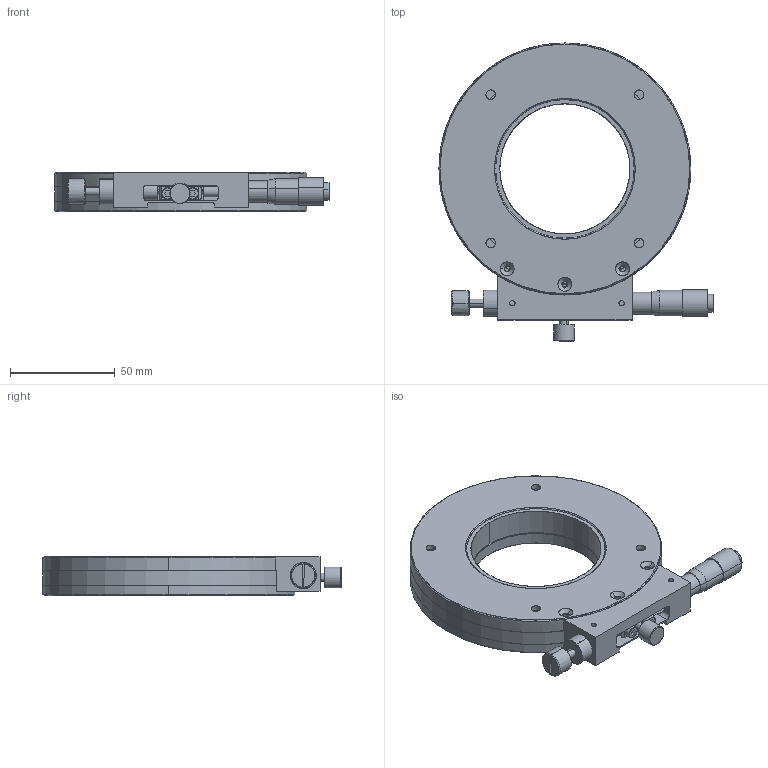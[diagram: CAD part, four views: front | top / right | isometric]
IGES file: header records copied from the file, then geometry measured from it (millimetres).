
Start section: SolidWorks IGES file using analytic representation for surfaces
Global section: file name: C:\Users\dubin\Desktop\0507\PT-SR120（根据三维和样本所画）\PT-SR120（1）\PT-SR120.IGS; native system: SolidWorks 2017; preprocessor: SolidWorks 2017; author: PDV; date: 230507.170623; units: millimetre
Bounding box: 130.6 x 142.02 x 19 mm (x, y, z)
Surface area: 80107.8 mm2 (no closed solid volume)
Topology: 0 solids, 0 shells, 516 faces, 9966 edges, 9942 vertices
Faces by surface type: revolution 298, bspline 218
